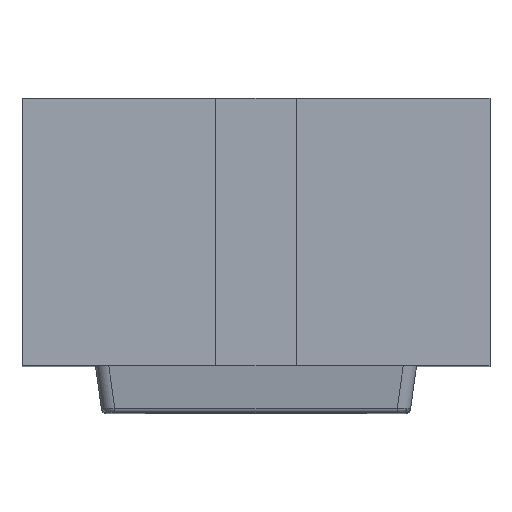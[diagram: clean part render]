
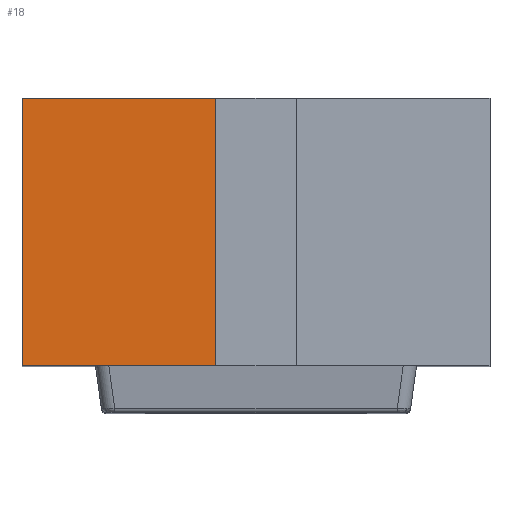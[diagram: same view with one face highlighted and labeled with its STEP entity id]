
A CAD part, top view. The second image highlights one B-rep face of the part: STEP entity #18.
In plain terms, the highlighted planar face has unit normal (0, 0, 1).
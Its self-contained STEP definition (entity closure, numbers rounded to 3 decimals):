
#18 = ADVANCED_FACE ( 'NONE', ( #1384 ), #1554, .F. ) ;
#23 = CARTESIAN_POINT ( 'NONE',  ( -17.5, 20., 24. ) ) ;
#129 = EDGE_CURVE ( 'NONE', #1876, #466, #1907, .T. ) ;
#130 = LINE ( 'NONE', #151, #1433 ) ;
#151 = CARTESIAN_POINT ( 'NONE',  ( -17.5, 2., 24. ) ) ;
#239 = ORIENTED_EDGE ( 'NONE', *, *, #835, .F. ) ;
#275 = CARTESIAN_POINT ( 'NONE',  ( 0., 0., 24. ) ) ;
#388 = ORIENTED_EDGE ( 'NONE', *, *, #1991, .T. ) ;
#401 = VERTEX_POINT ( 'NONE', #23 ) ;
#466 = VERTEX_POINT ( 'NONE', #1058 ) ;
#526 = CARTESIAN_POINT ( 'NONE',  ( 0., 20., 24. ) ) ;
#557 = LINE ( 'NONE', #526, #1182 ) ;
#791 = DIRECTION ( 'NONE',  ( 1., 0., 0. ) ) ;
#835 = EDGE_CURVE ( 'NONE', #1303, #466, #1698, .T. ) ;
#888 = CARTESIAN_POINT ( 'NONE',  ( -1.5, 20., 24. ) ) ;
#1058 = CARTESIAN_POINT ( 'NONE',  ( -1.5, 0., 24. ) ) ;
#1061 = CARTESIAN_POINT ( 'NONE',  ( 0., 2., 24. ) ) ;
#1182 = VECTOR ( 'NONE', #2025, 1000. ) ;
#1228 = DIRECTION ( 'NONE',  ( 0., -1., 0. ) ) ;
#1303 = VERTEX_POINT ( 'NONE', #1958 ) ;
#1305 = ORIENTED_EDGE ( 'NONE', *, *, #129, .T. ) ;
#1384 = FACE_OUTER_BOUND ( 'NONE', #1591, .T. ) ;
#1433 = VECTOR ( 'NONE', #2150, 1000. ) ;
#1534 = DIRECTION ( 'NONE',  ( -1., 0., 0. ) ) ;
#1554 = PLANE ( 'NONE',  #1648 ) ;
#1591 = EDGE_LOOP ( 'NONE', ( #239, #1689, #388, #1305 ) ) ;
#1648 = AXIS2_PLACEMENT_3D ( 'NONE', #1061, #1888, #1534 ) ;
#1689 = ORIENTED_EDGE ( 'NONE', *, *, #1791, .F. ) ;
#1698 = LINE ( 'NONE', #888, #2013 ) ;
#1752 = CARTESIAN_POINT ( 'NONE',  ( -17.5, 0., 24. ) ) ;
#1791 = EDGE_CURVE ( 'NONE', #401, #1303, #557, .T. ) ;
#1876 = VERTEX_POINT ( 'NONE', #1752 ) ;
#1888 = DIRECTION ( 'NONE',  ( 0., 0., -1. ) ) ;
#1907 = LINE ( 'NONE', #275, #2097 ) ;
#1958 = CARTESIAN_POINT ( 'NONE',  ( -1.5, 20., 24. ) ) ;
#1991 = EDGE_CURVE ( 'NONE', #401, #1876, #130, .T. ) ;
#2013 = VECTOR ( 'NONE', #1228, 1000. ) ;
#2025 = DIRECTION ( 'NONE',  ( 1., 0., 0. ) ) ;
#2097 = VECTOR ( 'NONE', #791, 1000. ) ;
#2150 = DIRECTION ( 'NONE',  ( 0., -1., 0. ) ) ;
